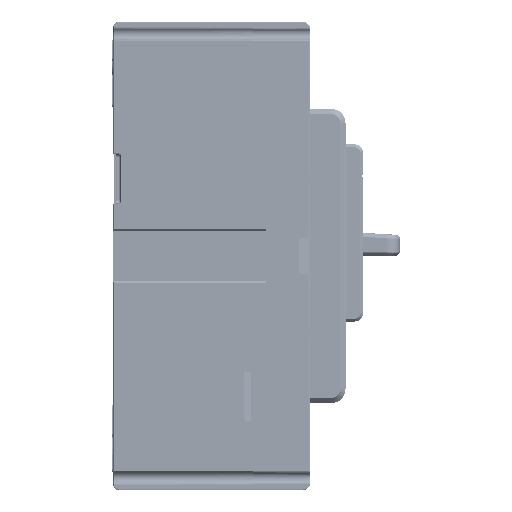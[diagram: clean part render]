
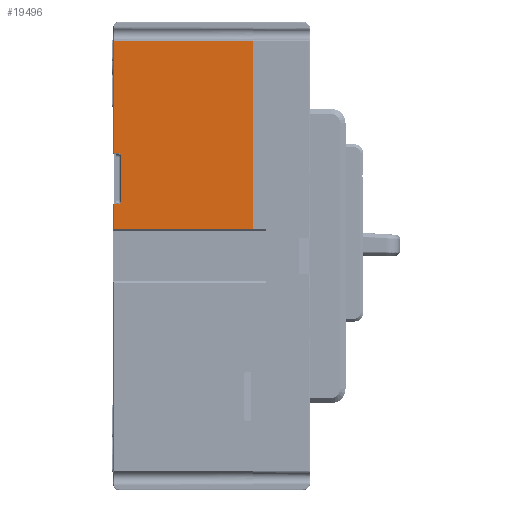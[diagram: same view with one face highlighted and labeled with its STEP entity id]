
A CAD part, left-side view. The second image highlights one B-rep face of the part: STEP entity #19496.
In plain terms, the highlighted planar face has unit normal (-1, 0, 0).
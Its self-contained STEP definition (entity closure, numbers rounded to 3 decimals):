
#1518=DIRECTION('',(0.,0.,-1.));
#1519=VECTOR('',#1518,7.1);
#1520=CARTESIAN_POINT('',(-37.5,39.3,14.6));
#1521=LINE('',#1520,#1519);
#2462=DIRECTION('',(0.,-1.,0.));
#2463=VECTOR('',#2462,1.3);
#2464=CARTESIAN_POINT('',(-37.5,39.3,29.));
#2465=LINE('',#2464,#2463);
#2470=DIRECTION('',(0.,0.,-1.));
#2471=VECTOR('',#2470,53.11);
#2472=CARTESIAN_POINT('',(-37.5,0.,60.61));
#2473=LINE('',#2472,#2471);
#2474=DIRECTION('',(0.,1.,0.));
#2475=VECTOR('',#2474,39.3);
#2476=CARTESIAN_POINT('',(-37.5,0.,7.5));
#2477=LINE('',#2476,#2475);
#2478=CARTESIAN_POINT('',(-37.5,38.,15.3));
#2479=DIRECTION('',(-1.,0.,0.));
#2480=DIRECTION('',(0.,0.,-1.));
#2481=AXIS2_PLACEMENT_3D('',#2478,#2479,#2480);
#2483=CARTESIAN_POINT('',(-37.5,38.,28.3));
#2484=DIRECTION('',(-1.,0.,0.));
#2485=DIRECTION('',(0.,-1.,0.));
#2486=AXIS2_PLACEMENT_3D('',#2483,#2484,#2485);
#2488=DIRECTION('',(0.,1.,0.));
#2489=VECTOR('',#2488,39.3);
#2490=CARTESIAN_POINT('',(-37.5,0.,60.61));
#2491=LINE('',#2490,#2489);
#6525=DIRECTION('',(0.,0.,-1.));
#6526=VECTOR('',#6525,31.61);
#6527=CARTESIAN_POINT('',(-37.5,39.3,60.61));
#6528=LINE('',#6527,#6526);
#6533=DIRECTION('',(0.,1.,0.));
#6534=VECTOR('',#6533,1.3);
#6535=CARTESIAN_POINT('',(-37.5,38.,14.6));
#6536=LINE('',#6535,#6534);
#6612=DIRECTION('',(0.,0.,-1.));
#6613=VECTOR('',#6612,13.);
#6614=CARTESIAN_POINT('',(-37.5,37.3,28.3));
#6615=LINE('',#6614,#6613);
#13289=CARTESIAN_POINT('',(-37.5,0.,7.5));
#13290=VERTEX_POINT('',#13289);
#13291=CARTESIAN_POINT('',(-37.5,0.,60.61));
#13292=VERTEX_POINT('',#13291);
#14247=CARTESIAN_POINT('',(-37.5,39.3,60.61));
#14248=VERTEX_POINT('',#14247);
#14249=CARTESIAN_POINT('',(-37.5,39.3,7.5));
#14250=VERTEX_POINT('',#14249);
#14251=CARTESIAN_POINT('',(-37.5,39.3,14.6));
#14252=VERTEX_POINT('',#14251);
#14253=CARTESIAN_POINT('',(-37.5,38.,14.6));
#14254=VERTEX_POINT('',#14253);
#14255=CARTESIAN_POINT('',(-37.5,37.3,15.3));
#14256=VERTEX_POINT('',#14255);
#14257=CARTESIAN_POINT('',(-37.5,37.3,28.3));
#14258=VERTEX_POINT('',#14257);
#14259=CARTESIAN_POINT('',(-37.5,38.,29.));
#14260=VERTEX_POINT('',#14259);
#14261=CARTESIAN_POINT('',(-37.5,39.3,29.));
#14262=VERTEX_POINT('',#14261);
#19473=CARTESIAN_POINT('',(-37.5,0.,-66.));
#19474=DIRECTION('',(-1.,0.,0.));
#19475=DIRECTION('',(0.,0.,1.));
#19476=AXIS2_PLACEMENT_3D('',#19473,#19474,#19475);
#19477=PLANE('',#19476);
#19479=ORIENTED_EDGE('',*,*,#19478,.F.);
#19480=ORIENTED_EDGE('',*,*,#16853,.T.);
#19481=ORIENTED_EDGE('',*,*,#18371,.T.);
#19482=ORIENTED_EDGE('',*,*,#18388,.F.);
#19484=ORIENTED_EDGE('',*,*,#19483,.F.);
#19486=ORIENTED_EDGE('',*,*,#19485,.T.);
#19488=ORIENTED_EDGE('',*,*,#19487,.F.);
#19490=ORIENTED_EDGE('',*,*,#19489,.T.);
#19491=ORIENTED_EDGE('',*,*,#19462,.F.);
#19493=ORIENTED_EDGE('',*,*,#19492,.F.);
#19494=EDGE_LOOP('',(#19479,#19480,#19481,#19482,#19484,#19486,#19488,#19490,
#19491,#19493));
#19495=FACE_OUTER_BOUND('',#19494,.F.);
#19496=ADVANCED_FACE('',(#19495),#19477,.T.);
#2482=CIRCLE('',#2481,0.7);
#2487=CIRCLE('',#2486,0.7);
#16853=EDGE_CURVE('',#13292,#13290,#2473,.T.);
#18371=EDGE_CURVE('',#13290,#14250,#2477,.T.);
#18388=EDGE_CURVE('',#14252,#14250,#1521,.T.);
#19462=EDGE_CURVE('',#14262,#14260,#2465,.T.);
#19478=EDGE_CURVE('',#13292,#14248,#2491,.T.);
#19483=EDGE_CURVE('',#14254,#14252,#6536,.T.);
#19485=EDGE_CURVE('',#14254,#14256,#2482,.T.);
#19487=EDGE_CURVE('',#14258,#14256,#6615,.T.);
#19489=EDGE_CURVE('',#14258,#14260,#2487,.T.);
#19492=EDGE_CURVE('',#14248,#14262,#6528,.T.);
